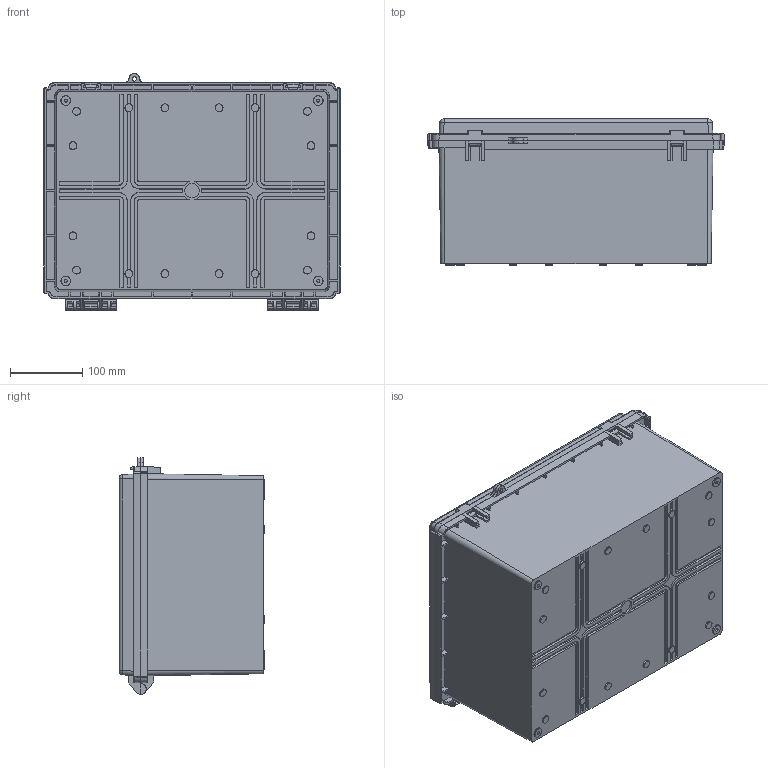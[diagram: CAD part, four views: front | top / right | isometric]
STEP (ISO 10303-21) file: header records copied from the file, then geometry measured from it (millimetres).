
FILE_DESCRIPTION (( 'STEP AP203' ), '1' );
FILE_NAME ('PC304020.STEP', '2021-01-11T06:24:12', ( '' ), ( '' ), 'SwSTEP 2.0', 'SolidWorks 2020', '' );
FILE_SCHEMA (( 'CONFIG_CONTROL_DESIGN' ));
Length unit declared in the file: millimetre
Products named in the file (3): PC304020
Assembly tree (2 placements, depth 2):
  PC304020
    PC304020
    PC304020
Bounding box: 411 x 202 x 328.5 mm (x, y, z)
Volume: 1831556.7 mm3; surface area: 1079536.2 mm2
Topology: 2 solids, 2 shells, 894 faces, 2385 edges, 1552 vertices
Faces by surface type: plane 571, cylinder 144, cone 123, bspline 48, torus 8
Entity records: 29948 total; most frequent: CARTESIAN_POINT 7998, ORIENTED_EDGE 4770, DIRECTION 4163, EDGE_CURVE 2385, LINE 1641, VECTOR 1641, VERTEX_POINT 1552, AXIS2_PLACEMENT_3D 1261
